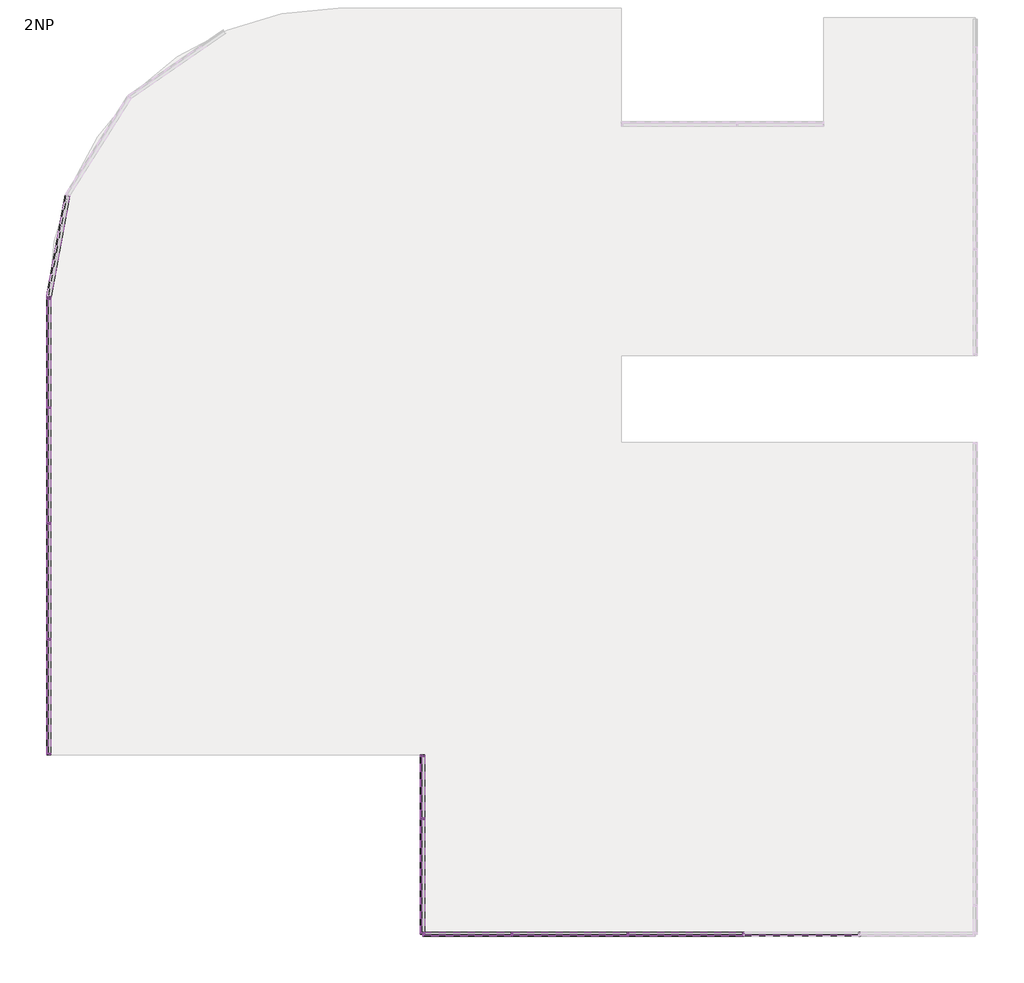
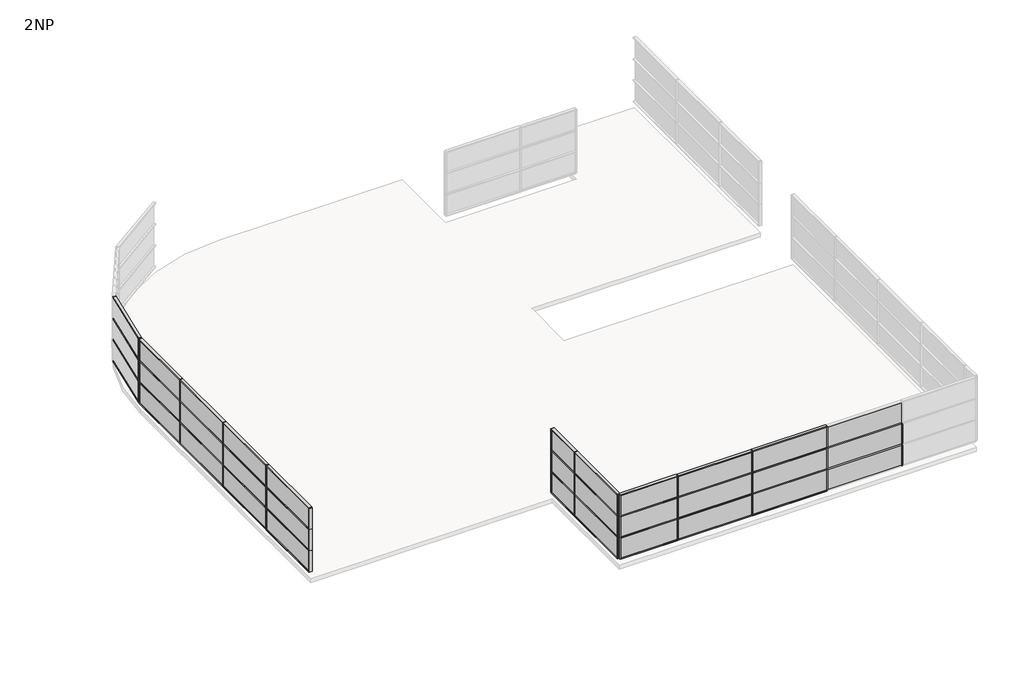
# One storey, part 1 of 4: 81 members, 30 plates.
"""IFC4 building model written with IfcOpenShell, lengths in millimetres."""

from ifc_helpers import new_model, si_unit, origin, place, context, project, spatial, transform, mapped, element, save
from components import rectangular_mullion_50_x_150mm_d99dc9be, rectangular_mullion_50_x_150mm_6588f46c, rectangular_mullion_50_x_150mm_a037c29c, rectangular_mullion_50_x_150mm_c2546fd4, rectangular_mullion_50_x_150mm_cd873b1a, rectangular_mullion_50_x_150mm_642c3999, rectangular_mullion_50_x_150mm_d9fe8572, rectangular_mullion_50_x_150mm_f56f8a9a, system_panel_glazed_8e9402eb, system_panel_glazed_89ac83a7, system_panel_glazed_2dc425e2, system_panel_glazed_da5fadb4, system_panel_glazed_3a708ec0

model = new_model("IFC4")

# Units and contexts
model_context = context("Model", 3, world=origin())
ifc_project = project(units=[si_unit("LENGTHUNIT", "METRE", prefix="MILLI")], contexts=[model_context])

# Site, building, storey
site = spatial("IfcSite", under=ifc_project)
building = spatial("IfcBuilding", under=site)
storey = spatial("IfcBuildingStorey", under=building, Name="2NP", Elevation=8000.0)

# Members
placement = place(None, origin())
rectangular_mullion_50_x_150mm_shape = rectangular_mullion_50_x_150mm_d99dc9be(model_context)
element("IfcMember", 1, ObjectType="Rectangular Mullion : 50 x 150mm", at=placement, inside=storey, context=model_context, shape_type="MappedRepresentation", body=[
    mapped(rectangular_mullion_50_x_150mm_shape, transform((9503.2660975, -23624.0160434, 9600.0), x_axis=(-1.0, 0.0, 0.0), y_axis=(0.0, -1.0, 0.0), z_axis=(0.0, 0.0, 1.0))),
])
element("IfcMember", 2, ObjectType="Rectangular Mullion : 50 x 150mm", at=placement, inside=storey, context=model_context, shape_type="MappedRepresentation", body=[
    mapped(rectangular_mullion_50_x_150mm_shape, transform((9503.2660975, -23624.0160434, 10800.0), x_axis=(-1.0, 0.0, 0.0), y_axis=(0.0, -1.0, 0.0), z_axis=(0.0, 0.0, 1.0))),
])
element("IfcMember", 3, ObjectType="Rectangular Mullion : 50 x 150mm", at=placement, inside=storey, context=model_context, shape_type="MappedRepresentation", body=[
    mapped(rectangular_mullion_50_x_150mm_shape, transform((5503.2660975, -23624.0160434, 9600.0), x_axis=(-1.0, 0.0, 0.0), y_axis=(0.0, -1.0, 0.0), z_axis=(0.0, 0.0, 1.0))),
])
element("IfcMember", 4, ObjectType="Rectangular Mullion : 50 x 150mm", at=placement, inside=storey, context=model_context, shape_type="MappedRepresentation", body=[
    mapped(rectangular_mullion_50_x_150mm_shape, transform((5503.2660975, -23624.0160434, 10800.0), x_axis=(-1.0, 0.0, 0.0), y_axis=(0.0, -1.0, 0.0), z_axis=(0.0, 0.0, 1.0))),
])
element("IfcMember", 5, ObjectType="Rectangular Mullion : 50 x 150mm", at=placement, inside=storey, context=model_context, shape_type="MappedRepresentation", body=[
    mapped(rectangular_mullion_50_x_150mm_shape, transform((5503.2660975, -23624.0160434, 12000.0), x_axis=(-1.0, 0.0, 0.0), y_axis=(0.0, -1.0, 0.0), z_axis=(0.0, 0.0, 1.0))),
])
element("IfcMember", 6, ObjectType="Rectangular Mullion : 50 x 150mm", at=placement, inside=storey, context=model_context, shape_type="MappedRepresentation", body=[
    mapped(rectangular_mullion_50_x_150mm_shape, transform((1503.2660975, -23624.0160434, 9600.0), x_axis=(-1.0, 0.0, 0.0), y_axis=(0.0, -1.0, 0.0), z_axis=(0.0, 0.0, 1.0))),
])
element("IfcMember", 7, ObjectType="Rectangular Mullion : 50 x 150mm", at=placement, inside=storey, context=model_context, shape_type="MappedRepresentation", body=[
    mapped(rectangular_mullion_50_x_150mm_shape, transform((1503.2660975, -23624.0160434, 10800.0), x_axis=(-1.0, 0.0, 0.0), y_axis=(0.0, -1.0, 0.0), z_axis=(0.0, 0.0, 1.0))),
])
element("IfcMember", 8, ObjectType="Rectangular Mullion : 50 x 150mm", at=placement, inside=storey, context=model_context, shape_type="MappedRepresentation", body=[
    mapped(rectangular_mullion_50_x_150mm_shape, transform((1503.2660975, -23624.0160434, 12000.0), x_axis=(-1.0, 0.0, 0.0), y_axis=(0.0, -1.0, 0.0), z_axis=(0.0, 0.0, 1.0))),
])
element("IfcMember", 9, ObjectType="Rectangular Mullion : 50 x 150mm", at=placement, inside=storey, context=model_context, shape_type="MappedRepresentation", body=[
    mapped(rectangular_mullion_50_x_150mm_shape, transform((-2496.7339025, -23624.0160434, 9600.0), x_axis=(-1.0, 0.0, 0.0), y_axis=(0.0, -1.0, 0.0), z_axis=(0.0, 0.0, 1.0))),
])
element("IfcMember", 10, ObjectType="Rectangular Mullion : 50 x 150mm", at=placement, inside=storey, context=model_context, shape_type="MappedRepresentation", body=[
    mapped(rectangular_mullion_50_x_150mm_shape, transform((-2496.7339025, -23624.0160434, 10800.0), x_axis=(-1.0, 0.0, 0.0), y_axis=(0.0, -1.0, 0.0), z_axis=(0.0, 0.0, 1.0))),
])
element("IfcMember", 11, ObjectType="Rectangular Mullion : 50 x 150mm", at=placement, inside=storey, context=model_context, shape_type="MappedRepresentation", body=[
    mapped(rectangular_mullion_50_x_150mm_shape, transform((-2496.7339025, -23624.0160434, 12000.0), x_axis=(-1.0, 0.0, 0.0), y_axis=(0.0, -1.0, 0.0), z_axis=(0.0, 0.0, 1.0))),
])
element("IfcMember", 12, ObjectType="Rectangular Mullion : 50 x 150mm", at=placement, inside=storey, context=model_context, shape_type="MappedRepresentation", body=[
    mapped(rectangular_mullion_50_x_150mm_shape, transform((-5587.173406, -19624.0160434, 9600.0), x_axis=(0.0, 1.0, 0.0), y_axis=(-1.0, 0.0, 0.0), z_axis=(0.0, 0.0, 1.0))),
])
element("IfcMember", 13, ObjectType="Rectangular Mullion : 50 x 150mm", at=placement, inside=storey, context=model_context, shape_type="MappedRepresentation", body=[
    mapped(rectangular_mullion_50_x_150mm_shape, transform((-5587.173406, -19624.0160434, 10800.0), x_axis=(0.0, 1.0, 0.0), y_axis=(-1.0, 0.0, 0.0), z_axis=(0.0, 0.0, 1.0))),
])
element("IfcMember", 14, ObjectType="Rectangular Mullion : 50 x 150mm", at=placement, inside=storey, context=model_context, shape_type="MappedRepresentation", body=[
    mapped(rectangular_mullion_50_x_150mm_shape, transform((-5587.173406, -19624.0160434, 12000.0), x_axis=(0.0, 1.0, 0.0), y_axis=(-1.0, 0.0, 0.0), z_axis=(0.0, 0.0, 1.0))),
])
element("IfcMember", 15, ObjectType="Rectangular Mullion : 50 x 150mm", at=placement, inside=storey, context=model_context, shape_type="MappedRepresentation", body=[
    mapped(rectangular_mullion_50_x_150mm_shape, transform((-18496.7339025, -13423.5291324, 9600.0), x_axis=(0.0, 1.0, 0.0), y_axis=(-1.0, 0.0, 0.0), z_axis=(0.0, 0.0, 1.0))),
])
element("IfcMember", 16, ObjectType="Rectangular Mullion : 50 x 150mm", at=placement, inside=storey, context=model_context, shape_type="MappedRepresentation", body=[
    mapped(rectangular_mullion_50_x_150mm_shape, transform((-18496.7339025, -13423.5291324, 10800.0), x_axis=(0.0, 1.0, 0.0), y_axis=(-1.0, 0.0, 0.0), z_axis=(0.0, 0.0, 1.0))),
])
element("IfcMember", 17, ObjectType="Rectangular Mullion : 50 x 150mm", at=placement, inside=storey, context=model_context, shape_type="MappedRepresentation", body=[
    mapped(rectangular_mullion_50_x_150mm_shape, transform((-18496.7339025, -13423.5291324, 12000.0), x_axis=(0.0, 1.0, 0.0), y_axis=(-1.0, 0.0, 0.0), z_axis=(0.0, 0.0, 1.0))),
])
element("IfcMember", 18, ObjectType="Rectangular Mullion : 50 x 150mm", at=placement, inside=storey, context=model_context, shape_type="MappedRepresentation", body=[
    mapped(rectangular_mullion_50_x_150mm_shape, transform((-18496.7339025, -9423.5291324, 9600.0), x_axis=(0.0, 1.0, 0.0), y_axis=(-1.0, 0.0, 0.0), z_axis=(0.0, 0.0, 1.0))),
])
element("IfcMember", 19, ObjectType="Rectangular Mullion : 50 x 150mm", at=placement, inside=storey, context=model_context, shape_type="MappedRepresentation", body=[
    mapped(rectangular_mullion_50_x_150mm_shape, transform((-18496.7339025, -9423.5291324, 10800.0), x_axis=(0.0, 1.0, 0.0), y_axis=(-1.0, 0.0, 0.0), z_axis=(0.0, 0.0, 1.0))),
])
element("IfcMember", 20, ObjectType="Rectangular Mullion : 50 x 150mm", at=placement, inside=storey, context=model_context, shape_type="MappedRepresentation", body=[
    mapped(rectangular_mullion_50_x_150mm_shape, transform((-18496.7339025, -9423.5291324, 12000.0), x_axis=(0.0, 1.0, 0.0), y_axis=(-1.0, 0.0, 0.0), z_axis=(0.0, 0.0, 1.0))),
])
element("IfcMember", 21, ObjectType="Rectangular Mullion : 50 x 150mm", at=placement, inside=storey, context=model_context, shape_type="MappedRepresentation", body=[
    mapped(rectangular_mullion_50_x_150mm_shape, transform((-18496.7339025, -5423.5291324, 9600.0), x_axis=(0.0, 1.0, 0.0), y_axis=(-1.0, 0.0, 0.0), z_axis=(0.0, 0.0, 1.0))),
])
element("IfcMember", 22, ObjectType="Rectangular Mullion : 50 x 150mm", at=placement, inside=storey, context=model_context, shape_type="MappedRepresentation", body=[
    mapped(rectangular_mullion_50_x_150mm_shape, transform((-18496.7339025, -5423.5291324, 10800.0), x_axis=(0.0, 1.0, 0.0), y_axis=(-1.0, 0.0, 0.0), z_axis=(0.0, 0.0, 1.0))),
])
element("IfcMember", 23, ObjectType="Rectangular Mullion : 50 x 150mm", at=placement, inside=storey, context=model_context, shape_type="MappedRepresentation", body=[
    mapped(rectangular_mullion_50_x_150mm_shape, transform((-18496.7339025, -5423.5291324, 12000.0), x_axis=(0.0, 1.0, 0.0), y_axis=(-1.0, 0.0, 0.0), z_axis=(0.0, 0.0, 1.0))),
])
rectangular_mullion_50_x_150mm_2_shape = rectangular_mullion_50_x_150mm_6588f46c(model_context)
element("IfcMember", 24, ObjectType="Rectangular Mullion : 50 x 150mm", at=placement, inside=storey, context=model_context, shape_type="MappedRepresentation", body=[
    mapped(rectangular_mullion_50_x_150mm_2_shape, transform((-5587.173406, -23624.0160434, 9600.0), x_axis=(-1.0, 0.0, 0.0), y_axis=(0.0, -1.0, 0.0), z_axis=(0.0, 0.0, 1.0))),
])
element("IfcMember", 25, ObjectType="Rectangular Mullion : 50 x 150mm", at=placement, inside=storey, context=model_context, shape_type="MappedRepresentation", body=[
    mapped(rectangular_mullion_50_x_150mm_2_shape, transform((-5587.173406, -23624.0160434, 10800.0), x_axis=(-1.0, 0.0, 0.0), y_axis=(0.0, -1.0, 0.0), z_axis=(0.0, 0.0, 1.0))),
])
element("IfcMember", 26, ObjectType="Rectangular Mullion : 50 x 150mm", at=placement, inside=storey, context=model_context, shape_type="MappedRepresentation", body=[
    mapped(rectangular_mullion_50_x_150mm_2_shape, transform((-5587.173406, -23624.0160434, 12000.0), x_axis=(-1.0, 0.0, 0.0), y_axis=(0.0, -1.0, 0.0), z_axis=(0.0, 0.0, 1.0))),
])
element("IfcMember", 27, ObjectType="Rectangular Mullion : 50 x 150mm", at=placement, inside=storey, context=model_context, shape_type="MappedRepresentation", body=[
    mapped(rectangular_mullion_50_x_150mm_2_shape, transform((-5587.173406, -17423.5291324, 9600.0), x_axis=(0.0, 1.0, 0.0), y_axis=(-1.0, 0.0, 0.0), z_axis=(0.0, 0.0, 1.0))),
])
element("IfcMember", 28, ObjectType="Rectangular Mullion : 50 x 150mm", at=placement, inside=storey, context=model_context, shape_type="MappedRepresentation", body=[
    mapped(rectangular_mullion_50_x_150mm_2_shape, transform((-5587.173406, -17423.5291324, 10800.0), x_axis=(0.0, 1.0, 0.0), y_axis=(-1.0, 0.0, 0.0), z_axis=(0.0, 0.0, 1.0))),
])
element("IfcMember", 29, ObjectType="Rectangular Mullion : 50 x 150mm", at=placement, inside=storey, context=model_context, shape_type="MappedRepresentation", body=[
    mapped(rectangular_mullion_50_x_150mm_2_shape, transform((-5587.173406, -17423.5291324, 12000.0), x_axis=(0.0, 1.0, 0.0), y_axis=(-1.0, 0.0, 0.0), z_axis=(0.0, 0.0, 1.0))),
])
element("IfcMember", 30, ObjectType="Rectangular Mullion : 50 x 150mm", at=placement, inside=storey, context=model_context, shape_type="MappedRepresentation", body=[
    mapped(rectangular_mullion_50_x_150mm_2_shape, transform((-18496.7339025, -1624.0160434, 9600.0), x_axis=(0.0, 1.0, 0.0), y_axis=(-1.0, 0.0, 0.0), z_axis=(0.0, 0.0, 1.0))),
])
element("IfcMember", 31, ObjectType="Rectangular Mullion : 50 x 150mm", at=placement, inside=storey, context=model_context, shape_type="MappedRepresentation", body=[
    mapped(rectangular_mullion_50_x_150mm_2_shape, transform((-18496.7339025, -1624.0160434, 10800.0), x_axis=(0.0, 1.0, 0.0), y_axis=(-1.0, 0.0, 0.0), z_axis=(0.0, 0.0, 1.0))),
])
element("IfcMember", 32, ObjectType="Rectangular Mullion : 50 x 150mm", at=placement, inside=storey, context=model_context, shape_type="MappedRepresentation", body=[
    mapped(rectangular_mullion_50_x_150mm_2_shape, transform((-18496.7339025, -1624.0160434, 12000.0), x_axis=(0.0, 1.0, 0.0), y_axis=(-1.0, 0.0, 0.0), z_axis=(0.0, 0.0, 1.0))),
])
rectangular_mullion_50_x_150mm_3_shape = rectangular_mullion_50_x_150mm_a037c29c(model_context)
element("IfcMember", 33, ObjectType="Rectangular Mullion : 50 x 150mm", at=placement, inside=storey, context=model_context, shape_type="MappedRepresentation", body=[
    mapped(rectangular_mullion_50_x_150mm_3_shape, transform((5478.2660975, -23624.0160434, 8400.0), x_axis=(0.0, 0.0, 1.0), y_axis=(0.0, -1.0, 0.0), z_axis=(1.0, 0.0, 0.0))),
])
element("IfcMember", 34, ObjectType="Rectangular Mullion : 50 x 150mm", at=placement, inside=storey, context=model_context, shape_type="MappedRepresentation", body=[
    mapped(rectangular_mullion_50_x_150mm_3_shape, transform((1478.2660975, -23624.0160434, 8400.0), x_axis=(0.0, 0.0, 1.0), y_axis=(0.0, -1.0, 0.0), z_axis=(1.0, 0.0, 0.0))),
])
element("IfcMember", 35, ObjectType="Rectangular Mullion : 50 x 150mm", at=placement, inside=storey, context=model_context, shape_type="MappedRepresentation", body=[
    mapped(rectangular_mullion_50_x_150mm_3_shape, transform((5478.2660975, -23624.0160434, 9600.0), x_axis=(0.0, 0.0, 1.0), y_axis=(0.0, -1.0, 0.0), z_axis=(1.0, 0.0, 0.0))),
])
element("IfcMember", 36, ObjectType="Rectangular Mullion : 50 x 150mm", at=placement, inside=storey, context=model_context, shape_type="MappedRepresentation", body=[
    mapped(rectangular_mullion_50_x_150mm_3_shape, transform((1478.2660975, -23624.0160434, 9600.0), x_axis=(0.0, 0.0, 1.0), y_axis=(0.0, -1.0, 0.0), z_axis=(1.0, 0.0, 0.0))),
])
element("IfcMember", 37, ObjectType="Rectangular Mullion : 50 x 150mm", at=placement, inside=storey, context=model_context, shape_type="MappedRepresentation", body=[
    mapped(rectangular_mullion_50_x_150mm_3_shape, transform((5478.2660975, -23624.0160434, 10800.0), x_axis=(0.0, 0.0, 1.0), y_axis=(0.0, -1.0, 0.0), z_axis=(1.0, 0.0, 0.0))),
])
element("IfcMember", 38, ObjectType="Rectangular Mullion : 50 x 150mm", at=placement, inside=storey, context=model_context, shape_type="MappedRepresentation", body=[
    mapped(rectangular_mullion_50_x_150mm_3_shape, transform((1478.2660975, -23624.0160434, 10800.0), x_axis=(0.0, 0.0, 1.0), y_axis=(0.0, -1.0, 0.0), z_axis=(1.0, 0.0, 0.0))),
])
element("IfcMember", 39, ObjectType="Rectangular Mullion : 50 x 150mm", at=placement, inside=storey, context=model_context, shape_type="MappedRepresentation", body=[
    mapped(rectangular_mullion_50_x_150mm_3_shape, transform((5478.2660975, -23624.0160434, 12000.0), x_axis=(0.0, 0.0, 1.0), y_axis=(0.0, -1.0, 0.0), z_axis=(1.0, 0.0, 0.0))),
])
element("IfcMember", 40, ObjectType="Rectangular Mullion : 50 x 150mm", at=placement, inside=storey, context=model_context, shape_type="MappedRepresentation", body=[
    mapped(rectangular_mullion_50_x_150mm_3_shape, transform((1478.2660975, -23624.0160434, 12000.0), x_axis=(0.0, 0.0, 1.0), y_axis=(0.0, -1.0, 0.0), z_axis=(1.0, 0.0, 0.0))),
])
element("IfcMember", 41, ObjectType="Rectangular Mullion : 50 x 150mm", at=placement, inside=storey, context=model_context, shape_type="MappedRepresentation", body=[
    mapped(rectangular_mullion_50_x_150mm_3_shape, transform((-18496.7339025, -13398.5291324, 8400.0), x_axis=(0.0, 0.0, 1.0), y_axis=(-1.0, 0.0, 0.0), z_axis=(0.0, -1.0, 0.0))),
])
element("IfcMember", 42, ObjectType="Rectangular Mullion : 50 x 150mm", at=placement, inside=storey, context=model_context, shape_type="MappedRepresentation", body=[
    mapped(rectangular_mullion_50_x_150mm_3_shape, transform((-18496.7339025, -9398.5291324, 8400.0), x_axis=(0.0, 0.0, 1.0), y_axis=(-1.0, 0.0, 0.0), z_axis=(0.0, -1.0, 0.0))),
])
element("IfcMember", 43, ObjectType="Rectangular Mullion : 50 x 150mm", at=placement, inside=storey, context=model_context, shape_type="MappedRepresentation", body=[
    mapped(rectangular_mullion_50_x_150mm_3_shape, transform((-18496.7339025, -13398.5291324, 9600.0), x_axis=(0.0, 0.0, 1.0), y_axis=(-1.0, 0.0, 0.0), z_axis=(0.0, -1.0, 0.0))),
])
element("IfcMember", 44, ObjectType="Rectangular Mullion : 50 x 150mm", at=placement, inside=storey, context=model_context, shape_type="MappedRepresentation", body=[
    mapped(rectangular_mullion_50_x_150mm_3_shape, transform((-18496.7339025, -9398.5291324, 9600.0), x_axis=(0.0, 0.0, 1.0), y_axis=(-1.0, 0.0, 0.0), z_axis=(0.0, -1.0, 0.0))),
])
element("IfcMember", 45, ObjectType="Rectangular Mullion : 50 x 150mm", at=placement, inside=storey, context=model_context, shape_type="MappedRepresentation", body=[
    mapped(rectangular_mullion_50_x_150mm_3_shape, transform((-18496.7339025, -13398.5291324, 10800.0), x_axis=(0.0, 0.0, 1.0), y_axis=(-1.0, 0.0, 0.0), z_axis=(0.0, -1.0, 0.0))),
])
element("IfcMember", 46, ObjectType="Rectangular Mullion : 50 x 150mm", at=placement, inside=storey, context=model_context, shape_type="MappedRepresentation", body=[
    mapped(rectangular_mullion_50_x_150mm_3_shape, transform((-18496.7339025, -9398.5291324, 10800.0), x_axis=(0.0, 0.0, 1.0), y_axis=(-1.0, 0.0, 0.0), z_axis=(0.0, -1.0, 0.0))),
])
element("IfcMember", 47, ObjectType="Rectangular Mullion : 50 x 150mm", at=placement, inside=storey, context=model_context, shape_type="MappedRepresentation", body=[
    mapped(rectangular_mullion_50_x_150mm_3_shape, transform((-18496.7339025, -13398.5291324, 12000.0), x_axis=(0.0, 0.0, 1.0), y_axis=(-1.0, 0.0, 0.0), z_axis=(0.0, -1.0, 0.0))),
])
element("IfcMember", 48, ObjectType="Rectangular Mullion : 50 x 150mm", at=placement, inside=storey, context=model_context, shape_type="MappedRepresentation", body=[
    mapped(rectangular_mullion_50_x_150mm_3_shape, transform((-18496.7339025, -9398.5291324, 12000.0), x_axis=(0.0, 0.0, 1.0), y_axis=(-1.0, 0.0, 0.0), z_axis=(0.0, -1.0, 0.0))),
])
rectangular_mullion_50_x_150mm_4_shape = rectangular_mullion_50_x_150mm_c2546fd4(model_context)
element("IfcMember", 49, ObjectType="Rectangular Mullion : 50 x 150mm", at=placement, inside=storey, context=model_context, shape_type="MappedRepresentation", body=[
    mapped(rectangular_mullion_50_x_150mm_4_shape, transform((-5587.173406, -23574.0160434, 8400.0), x_axis=(0.0, 0.0, 1.0), y_axis=(-1.0, 0.0, 0.0), z_axis=(0.0, -1.0, 0.0))),
])
element("IfcMember", 50, ObjectType="Rectangular Mullion : 50 x 150mm", at=placement, inside=storey, context=model_context, shape_type="MappedRepresentation", body=[
    mapped(rectangular_mullion_50_x_150mm_4_shape, transform((-5587.173406, -23574.0160434, 9600.0), x_axis=(0.0, 0.0, 1.0), y_axis=(-1.0, 0.0, 0.0), z_axis=(0.0, -1.0, 0.0))),
])
element("IfcMember", 51, ObjectType="Rectangular Mullion : 50 x 150mm", at=placement, inside=storey, context=model_context, shape_type="MappedRepresentation", body=[
    mapped(rectangular_mullion_50_x_150mm_4_shape, transform((-5587.173406, -23574.0160434, 10800.0), x_axis=(0.0, 0.0, 1.0), y_axis=(-1.0, 0.0, 0.0), z_axis=(0.0, -1.0, 0.0))),
])
element("IfcMember", 52, ObjectType="Rectangular Mullion : 50 x 150mm", at=placement, inside=storey, context=model_context, shape_type="MappedRepresentation", body=[
    mapped(rectangular_mullion_50_x_150mm_4_shape, transform((-5587.173406, -23574.0160434, 12000.0), x_axis=(0.0, 0.0, 1.0), y_axis=(-1.0, 0.0, 0.0), z_axis=(0.0, -1.0, 0.0))),
])
element("IfcMember", 53, ObjectType="Rectangular Mullion : 50 x 150mm", at=placement, inside=storey, context=model_context, shape_type="MappedRepresentation", body=[
    mapped(rectangular_mullion_50_x_150mm_4_shape, transform((-18496.7339025, -17373.5291324, 8400.0), x_axis=(0.0, 0.0, 1.0), y_axis=(-1.0, 0.0, 0.0), z_axis=(0.0, -1.0, 0.0))),
])
element("IfcMember", 54, ObjectType="Rectangular Mullion : 50 x 150mm", at=placement, inside=storey, context=model_context, shape_type="MappedRepresentation", body=[
    mapped(rectangular_mullion_50_x_150mm_4_shape, transform((-18496.7339025, -17373.5291324, 9600.0), x_axis=(0.0, 0.0, 1.0), y_axis=(-1.0, 0.0, 0.0), z_axis=(0.0, -1.0, 0.0))),
])
element("IfcMember", 55, ObjectType="Rectangular Mullion : 50 x 150mm", at=placement, inside=storey, context=model_context, shape_type="MappedRepresentation", body=[
    mapped(rectangular_mullion_50_x_150mm_4_shape, transform((-18496.7339025, -17373.5291324, 10800.0), x_axis=(0.0, 0.0, 1.0), y_axis=(-1.0, 0.0, 0.0), z_axis=(0.0, -1.0, 0.0))),
])
element("IfcMember", 56, ObjectType="Rectangular Mullion : 50 x 150mm", at=placement, inside=storey, context=model_context, shape_type="MappedRepresentation", body=[
    mapped(rectangular_mullion_50_x_150mm_4_shape, transform((-18496.7339025, -17373.5291324, 12000.0), x_axis=(0.0, 0.0, 1.0), y_axis=(-1.0, 0.0, 0.0), z_axis=(0.0, -1.0, 0.0))),
])
element("IfcMember", 57, ObjectType="Rectangular Mullion : 50 x 150mm", at=placement, inside=storey, context=model_context, shape_type="MappedRepresentation", body=[
    mapped(rectangular_mullion_50_x_150mm_2_shape, transform((-5587.173406, -23624.0160434, 8400.0), x_axis=(0.0, -1.0, 0.0), y_axis=(-1.0, 0.0, 0.0), z_axis=(0.0, 0.0, -1.0))),
])
element("IfcMember", 58, ObjectType="Rectangular Mullion : 50 x 150mm", at=placement, inside=storey, context=model_context, shape_type="MappedRepresentation", body=[
    mapped(rectangular_mullion_50_x_150mm_2_shape, transform((-5587.173406, -23624.0160434, 9600.0), x_axis=(0.0, -1.0, 0.0), y_axis=(-1.0, 0.0, 0.0), z_axis=(0.0, 0.0, -1.0))),
])
element("IfcMember", 59, ObjectType="Rectangular Mullion : 50 x 150mm", at=placement, inside=storey, context=model_context, shape_type="MappedRepresentation", body=[
    mapped(rectangular_mullion_50_x_150mm_2_shape, transform((-5587.173406, -23624.0160434, 10800.0), x_axis=(0.0, -1.0, 0.0), y_axis=(-1.0, 0.0, 0.0), z_axis=(0.0, 0.0, -1.0))),
])
element("IfcMember", 60, ObjectType="Rectangular Mullion : 50 x 150mm", at=placement, inside=storey, context=model_context, shape_type="MappedRepresentation", body=[
    mapped(rectangular_mullion_50_x_150mm_2_shape, transform((-18496.7339025, -1624.0160434, 8400.0), x_axis=(-0.18033241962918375, -0.9836057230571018, 0.0), y_axis=(-0.9836057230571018, 0.18033241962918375, 0.0), z_axis=(0.0, 0.0, -1.0))),
])
element("IfcMember", 61, ObjectType="Rectangular Mullion : 50 x 150mm", at=placement, inside=storey, context=model_context, shape_type="MappedRepresentation", body=[
    mapped(rectangular_mullion_50_x_150mm_2_shape, transform((-18496.7339025, -1624.0160434, 9600.0), x_axis=(-0.18033241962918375, -0.9836057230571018, 0.0), y_axis=(-0.9836057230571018, 0.18033241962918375, 0.0), z_axis=(0.0, 0.0, -1.0))),
])
element("IfcMember", 62, ObjectType="Rectangular Mullion : 50 x 150mm", at=placement, inside=storey, context=model_context, shape_type="MappedRepresentation", body=[
    mapped(rectangular_mullion_50_x_150mm_2_shape, transform((-18496.7339025, -1624.0160434, 10800.0), x_axis=(-0.18033241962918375, -0.9836057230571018, 0.0), y_axis=(-0.9836057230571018, 0.18033241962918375, 0.0), z_axis=(0.0, 0.0, -1.0))),
])
element("IfcMember", 63, ObjectType="Rectangular Mullion : 50 x 150mm", at=placement, inside=storey, context=model_context, shape_type="MappedRepresentation", body=[
    mapped(rectangular_mullion_50_x_150mm_2_shape, transform((-18496.7339025, -17423.5291324, 8400.0), x_axis=(0.0, -1.0, 0.0), y_axis=(-1.0, 0.0, 0.0), z_axis=(0.0, 0.0, -1.0))),
])
element("IfcMember", 64, ObjectType="Rectangular Mullion : 50 x 150mm", at=placement, inside=storey, context=model_context, shape_type="MappedRepresentation", body=[
    mapped(rectangular_mullion_50_x_150mm_2_shape, transform((-18496.7339025, -17423.5291324, 9600.0), x_axis=(0.0, -1.0, 0.0), y_axis=(-1.0, 0.0, 0.0), z_axis=(0.0, 0.0, -1.0))),
])
element("IfcMember", 65, ObjectType="Rectangular Mullion : 50 x 150mm", at=placement, inside=storey, context=model_context, shape_type="MappedRepresentation", body=[
    mapped(rectangular_mullion_50_x_150mm_2_shape, transform((-18496.7339025, -17423.5291324, 10800.0), x_axis=(0.0, -1.0, 0.0), y_axis=(-1.0, 0.0, 0.0), z_axis=(0.0, 0.0, -1.0))),
])
rectangular_mullion_50_x_150mm_5_shape = rectangular_mullion_50_x_150mm_cd873b1a(model_context)
element("IfcMember", 66, ObjectType="Rectangular Mullion : 50 x 150mm", at=placement, inside=storey, context=model_context, shape_type="MappedRepresentation", body=[
    mapped(rectangular_mullion_50_x_150mm_5_shape, transform((-2521.7339025, -23624.0160434, 8400.0), x_axis=(0.0, 0.0, 1.0), y_axis=(0.0, -1.0, 0.0), z_axis=(1.0, 0.0, 0.0))),
])
element("IfcMember", 67, ObjectType="Rectangular Mullion : 50 x 150mm", at=placement, inside=storey, context=model_context, shape_type="MappedRepresentation", body=[
    mapped(rectangular_mullion_50_x_150mm_5_shape, transform((-2521.7339025, -23624.0160434, 9600.0), x_axis=(0.0, 0.0, 1.0), y_axis=(0.0, -1.0, 0.0), z_axis=(1.0, 0.0, 0.0))),
])
element("IfcMember", 68, ObjectType="Rectangular Mullion : 50 x 150mm", at=placement, inside=storey, context=model_context, shape_type="MappedRepresentation", body=[
    mapped(rectangular_mullion_50_x_150mm_5_shape, transform((-2521.7339025, -23624.0160434, 10800.0), x_axis=(0.0, 0.0, 1.0), y_axis=(0.0, -1.0, 0.0), z_axis=(1.0, 0.0, 0.0))),
])
element("IfcMember", 69, ObjectType="Rectangular Mullion : 50 x 150mm", at=placement, inside=storey, context=model_context, shape_type="MappedRepresentation", body=[
    mapped(rectangular_mullion_50_x_150mm_5_shape, transform((-2521.7339025, -23624.0160434, 12000.0), x_axis=(0.0, 0.0, 1.0), y_axis=(0.0, -1.0, 0.0), z_axis=(1.0, 0.0, 0.0))),
])
rectangular_mullion_50_x_150mm_6_shape = rectangular_mullion_50_x_150mm_642c3999(model_context)
element("IfcMember", 70, ObjectType="Rectangular Mullion : 50 x 150mm", at=placement, inside=storey, context=model_context, shape_type="MappedRepresentation", body=[
    mapped(rectangular_mullion_50_x_150mm_6_shape, transform((-5587.173406, -19599.0160434, 8400.0), x_axis=(0.0, 0.0, 1.0), y_axis=(-1.0, 0.0, 0.0), z_axis=(0.0, -1.0, 0.0))),
])
element("IfcMember", 71, ObjectType="Rectangular Mullion : 50 x 150mm", at=placement, inside=storey, context=model_context, shape_type="MappedRepresentation", body=[
    mapped(rectangular_mullion_50_x_150mm_6_shape, transform((-5587.173406, -19599.0160434, 9600.0), x_axis=(0.0, 0.0, 1.0), y_axis=(-1.0, 0.0, 0.0), z_axis=(0.0, -1.0, 0.0))),
])
element("IfcMember", 72, ObjectType="Rectangular Mullion : 50 x 150mm", at=placement, inside=storey, context=model_context, shape_type="MappedRepresentation", body=[
    mapped(rectangular_mullion_50_x_150mm_6_shape, transform((-5587.173406, -19599.0160434, 10800.0), x_axis=(0.0, 0.0, 1.0), y_axis=(-1.0, 0.0, 0.0), z_axis=(0.0, -1.0, 0.0))),
])
element("IfcMember", 73, ObjectType="Rectangular Mullion : 50 x 150mm", at=placement, inside=storey, context=model_context, shape_type="MappedRepresentation", body=[
    mapped(rectangular_mullion_50_x_150mm_6_shape, transform((-5587.173406, -19599.0160434, 12000.0), x_axis=(0.0, 0.0, 1.0), y_axis=(-1.0, 0.0, 0.0), z_axis=(0.0, -1.0, 0.0))),
])
rectangular_mullion_50_x_150mm_7_shape = rectangular_mullion_50_x_150mm_d9fe8572(model_context)
element("IfcMember", 74, ObjectType="Rectangular Mullion : 50 x 150mm", at=placement, inside=storey, context=model_context, shape_type="MappedRepresentation", body=[
    mapped(rectangular_mullion_50_x_150mm_7_shape, transform((-18487.7172815, -1574.8357573, 9600.0), x_axis=(0.0, 0.0, 1.0), y_axis=(-0.9836057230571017, 0.1803324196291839, 0.0), z_axis=(-0.1803324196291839, -0.9836057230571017, 0.0))),
])
element("IfcMember", 75, ObjectType="Rectangular Mullion : 50 x 150mm", at=placement, inside=storey, context=model_context, shape_type="MappedRepresentation", body=[
    mapped(rectangular_mullion_50_x_150mm_7_shape, transform((-18487.7172815, -1574.8357573, 10800.0), x_axis=(0.0, 0.0, 1.0), y_axis=(-0.9836057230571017, 0.18033241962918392, 0.0), z_axis=(-0.18033241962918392, -0.9836057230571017, 0.0))),
])
element("IfcMember", 76, ObjectType="Rectangular Mullion : 50 x 150mm", at=placement, inside=storey, context=model_context, shape_type="MappedRepresentation", body=[
    mapped(rectangular_mullion_50_x_150mm_7_shape, transform((-18487.7172815, -1574.8357573, 8400.0), x_axis=(0.0, 0.0, 1.0), y_axis=(-0.9836057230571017, 0.1803324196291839, 0.0), z_axis=(-0.1803324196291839, -0.9836057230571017, 0.0))),
])
element("IfcMember", 77, ObjectType="Rectangular Mullion : 50 x 150mm", at=placement, inside=storey, context=model_context, shape_type="MappedRepresentation", body=[
    mapped(rectangular_mullion_50_x_150mm_7_shape, transform((-18487.7172815, -1574.8357573, 12000.0), x_axis=(0.0, 0.0, 1.0), y_axis=(-0.9836057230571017, 0.18033241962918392, 0.0), z_axis=(-0.18033241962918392, -0.9836057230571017, 0.0))),
])
rectangular_mullion_50_x_150mm_8_shape = rectangular_mullion_50_x_150mm_f56f8a9a(model_context)
element("IfcMember", 78, ObjectType="Rectangular Mullion : 50 x 150mm", at=placement, inside=storey, context=model_context, shape_type="MappedRepresentation", body=[
    mapped(rectangular_mullion_50_x_150mm_8_shape, transform((-18496.7339025, -5398.5291324, 8400.0), x_axis=(0.0, 0.0, 1.0), y_axis=(-1.0, 0.0, 0.0), z_axis=(0.0, -1.0, 0.0))),
])
element("IfcMember", 79, ObjectType="Rectangular Mullion : 50 x 150mm", at=placement, inside=storey, context=model_context, shape_type="MappedRepresentation", body=[
    mapped(rectangular_mullion_50_x_150mm_8_shape, transform((-18496.7339025, -5398.5291324, 9600.0), x_axis=(0.0, 0.0, 1.0), y_axis=(-1.0, 0.0, 0.0), z_axis=(0.0, -1.0, 0.0))),
])
element("IfcMember", 80, ObjectType="Rectangular Mullion : 50 x 150mm", at=placement, inside=storey, context=model_context, shape_type="MappedRepresentation", body=[
    mapped(rectangular_mullion_50_x_150mm_8_shape, transform((-18496.7339025, -5398.5291324, 10800.0), x_axis=(0.0, 0.0, 1.0), y_axis=(-1.0, 0.0, 0.0), z_axis=(0.0, -1.0, 0.0))),
])
element("IfcMember", 81, ObjectType="Rectangular Mullion : 50 x 150mm", at=placement, inside=storey, context=model_context, shape_type="MappedRepresentation", body=[
    mapped(rectangular_mullion_50_x_150mm_8_shape, transform((-18496.7339025, -5398.5291324, 12000.0), x_axis=(0.0, 0.0, 1.0), y_axis=(-1.0, 0.0, 0.0), z_axis=(0.0, -1.0, 0.0))),
])

# Plates
system_panel_glazed_shape = system_panel_glazed_8e9402eb(model_context)
element("IfcPlate", 82, ObjectType="System Panel : Glazed", at=placement, inside=storey, context=model_context, shape_type="MappedRepresentation", body=[
    mapped(system_panel_glazed_shape, transform((-5587.173406, -21611.5160434, 8425.0), x_axis=(0.0, 1.0, 0.0), y_axis=(-1.0, 0.0, 0.0), z_axis=(0.0, 0.0, 1.0))),
])
element("IfcPlate", 83, ObjectType="System Panel : Glazed", at=placement, inside=storey, context=model_context, shape_type="MappedRepresentation", body=[
    mapped(system_panel_glazed_shape, transform((-5587.173406, -21611.5160434, 9625.0), x_axis=(0.0, 1.0, 0.0), y_axis=(-1.0, 0.0, 0.0), z_axis=(0.0, 0.0, 1.0))),
])
element("IfcPlate", 84, ObjectType="System Panel : Glazed", at=placement, inside=storey, context=model_context, shape_type="MappedRepresentation", body=[
    mapped(system_panel_glazed_shape, transform((-5587.173406, -21611.5160434, 10825.0), x_axis=(0.0, 1.0, 0.0), y_axis=(-1.0, 0.0, 0.0), z_axis=(0.0, 0.0, 1.0))),
])
element("IfcPlate", 85, ObjectType="System Panel : Glazed", at=placement, inside=storey, context=model_context, shape_type="MappedRepresentation", body=[
    mapped(system_panel_glazed_shape, transform((-18496.7339025, -15411.0291324, 8425.0), x_axis=(0.0, 1.0, 0.0), y_axis=(-1.0, 0.0, 0.0), z_axis=(0.0, 0.0, 1.0))),
])
element("IfcPlate", 86, ObjectType="System Panel : Glazed", at=placement, inside=storey, context=model_context, shape_type="MappedRepresentation", body=[
    mapped(system_panel_glazed_shape, transform((-18496.7339025, -15411.0291324, 9625.0), x_axis=(0.0, 1.0, 0.0), y_axis=(-1.0, 0.0, 0.0), z_axis=(0.0, 0.0, 1.0))),
])
element("IfcPlate", 87, ObjectType="System Panel : Glazed", at=placement, inside=storey, context=model_context, shape_type="MappedRepresentation", body=[
    mapped(system_panel_glazed_shape, transform((-18496.7339025, -15411.0291324, 10825.0), x_axis=(0.0, 1.0, 0.0), y_axis=(-1.0, 0.0, 0.0), z_axis=(0.0, 0.0, 1.0))),
])
system_panel_glazed_2_shape = system_panel_glazed_89ac83a7(model_context)
element("IfcPlate", 88, ObjectType="System Panel : Glazed", at=placement, inside=storey, context=model_context, shape_type="MappedRepresentation", body=[
    mapped(system_panel_glazed_2_shape, transform((7503.2660975, -23624.0160434, 8425.0), x_axis=(-1.0, 0.0, 0.0), y_axis=(0.0, -1.0, 0.0), z_axis=(0.0, 0.0, 1.0))),
])
element("IfcPlate", 89, ObjectType="System Panel : Glazed", at=placement, inside=storey, context=model_context, shape_type="MappedRepresentation", body=[
    mapped(system_panel_glazed_2_shape, transform((3503.2660975, -23624.0160434, 8425.0), x_axis=(-1.0, 0.0, 0.0), y_axis=(0.0, -1.0, 0.0), z_axis=(0.0, 0.0, 1.0))),
])
element("IfcPlate", 90, ObjectType="System Panel : Glazed", at=placement, inside=storey, context=model_context, shape_type="MappedRepresentation", body=[
    mapped(system_panel_glazed_2_shape, transform((-496.7339025, -23624.0160434, 8425.0), x_axis=(-1.0, 0.0, 0.0), y_axis=(0.0, -1.0, 0.0), z_axis=(0.0, 0.0, 1.0))),
])
element("IfcPlate", 91, ObjectType="System Panel : Glazed", at=placement, inside=storey, context=model_context, shape_type="MappedRepresentation", body=[
    mapped(system_panel_glazed_2_shape, transform((7503.2660975, -23624.0160434, 9625.0), x_axis=(-1.0, 0.0, 0.0), y_axis=(0.0, -1.0, 0.0), z_axis=(0.0, 0.0, 1.0))),
])
element("IfcPlate", 92, ObjectType="System Panel : Glazed", at=placement, inside=storey, context=model_context, shape_type="MappedRepresentation", body=[
    mapped(system_panel_glazed_2_shape, transform((3503.2660975, -23624.0160434, 9625.0), x_axis=(-1.0, 0.0, 0.0), y_axis=(0.0, -1.0, 0.0), z_axis=(0.0, 0.0, 1.0))),
])
element("IfcPlate", 93, ObjectType="System Panel : Glazed", at=placement, inside=storey, context=model_context, shape_type="MappedRepresentation", body=[
    mapped(system_panel_glazed_2_shape, transform((-496.7339025, -23624.0160434, 9625.0), x_axis=(-1.0, 0.0, 0.0), y_axis=(0.0, -1.0, 0.0), z_axis=(0.0, 0.0, 1.0))),
])
element("IfcPlate", 94, ObjectType="System Panel : Glazed", at=placement, inside=storey, context=model_context, shape_type="MappedRepresentation", body=[
    mapped(system_panel_glazed_2_shape, transform((7503.2660975, -23624.0160434, 10825.0), x_axis=(-1.0, 0.0, 0.0), y_axis=(0.0, -1.0, 0.0), z_axis=(0.0, 0.0, 1.0))),
])
element("IfcPlate", 95, ObjectType="System Panel : Glazed", at=placement, inside=storey, context=model_context, shape_type="MappedRepresentation", body=[
    mapped(system_panel_glazed_2_shape, transform((3503.2660975, -23624.0160434, 10825.0), x_axis=(-1.0, 0.0, 0.0), y_axis=(0.0, -1.0, 0.0), z_axis=(0.0, 0.0, 1.0))),
])
element("IfcPlate", 96, ObjectType="System Panel : Glazed", at=placement, inside=storey, context=model_context, shape_type="MappedRepresentation", body=[
    mapped(system_panel_glazed_2_shape, transform((-496.7339025, -23624.0160434, 10825.0), x_axis=(-1.0, 0.0, 0.0), y_axis=(0.0, -1.0, 0.0), z_axis=(0.0, 0.0, 1.0))),
])
element("IfcPlate", 97, ObjectType="System Panel : Glazed", at=placement, inside=storey, context=model_context, shape_type="MappedRepresentation", body=[
    mapped(system_panel_glazed_2_shape, transform((-18496.7339025, -11423.5291324, 8425.0), x_axis=(0.0, 1.0, 0.0), y_axis=(-1.0, 0.0, 0.0), z_axis=(0.0, 0.0, 1.0))),
])
element("IfcPlate", 98, ObjectType="System Panel : Glazed", at=placement, inside=storey, context=model_context, shape_type="MappedRepresentation", body=[
    mapped(system_panel_glazed_2_shape, transform((-18496.7339025, -7423.5291324, 8425.0), x_axis=(0.0, 1.0, 0.0), y_axis=(-1.0, 0.0, 0.0), z_axis=(0.0, 0.0, 1.0))),
])
element("IfcPlate", 99, ObjectType="System Panel : Glazed", at=placement, inside=storey, context=model_context, shape_type="MappedRepresentation", body=[
    mapped(system_panel_glazed_2_shape, transform((-18496.7339025, -11423.5291324, 9625.0), x_axis=(0.0, 1.0, 0.0), y_axis=(-1.0, 0.0, 0.0), z_axis=(0.0, 0.0, 1.0))),
])
element("IfcPlate", 100, ObjectType="System Panel : Glazed", at=placement, inside=storey, context=model_context, shape_type="MappedRepresentation", body=[
    mapped(system_panel_glazed_2_shape, transform((-18496.7339025, -7423.5291324, 9625.0), x_axis=(0.0, 1.0, 0.0), y_axis=(-1.0, 0.0, 0.0), z_axis=(0.0, 0.0, 1.0))),
])
element("IfcPlate", 101, ObjectType="System Panel : Glazed", at=placement, inside=storey, context=model_context, shape_type="MappedRepresentation", body=[
    mapped(system_panel_glazed_2_shape, transform((-18496.7339025, -11423.5291324, 10825.0), x_axis=(0.0, 1.0, 0.0), y_axis=(-1.0, 0.0, 0.0), z_axis=(0.0, 0.0, 1.0))),
])
element("IfcPlate", 102, ObjectType="System Panel : Glazed", at=placement, inside=storey, context=model_context, shape_type="MappedRepresentation", body=[
    mapped(system_panel_glazed_2_shape, transform((-18496.7339025, -7423.5291324, 10825.0), x_axis=(0.0, 1.0, 0.0), y_axis=(-1.0, 0.0, 0.0), z_axis=(0.0, 0.0, 1.0))),
])
system_panel_glazed_3_shape = system_panel_glazed_2dc425e2(model_context)
element("IfcPlate", 103, ObjectType="System Panel : Glazed", at=placement, inside=storey, context=model_context, shape_type="MappedRepresentation", body=[
    mapped(system_panel_glazed_3_shape, transform((-4029.4536543, -23624.0160434, 8425.0), x_axis=(-1.0, 0.0, 0.0), y_axis=(0.0, -1.0, 0.0), z_axis=(0.0, 0.0, 1.0))),
])
element("IfcPlate", 104, ObjectType="System Panel : Glazed", at=placement, inside=storey, context=model_context, shape_type="MappedRepresentation", body=[
    mapped(system_panel_glazed_3_shape, transform((-4029.4536543, -23624.0160434, 9625.0), x_axis=(-1.0, 0.0, 0.0), y_axis=(0.0, -1.0, 0.0), z_axis=(0.0, 0.0, 1.0))),
])
element("IfcPlate", 105, ObjectType="System Panel : Glazed", at=placement, inside=storey, context=model_context, shape_type="MappedRepresentation", body=[
    mapped(system_panel_glazed_3_shape, transform((-4029.4536543, -23624.0160434, 10825.0), x_axis=(-1.0, 0.0, 0.0), y_axis=(0.0, -1.0, 0.0), z_axis=(0.0, 0.0, 1.0))),
])
system_panel_glazed_4_shape = system_panel_glazed_da5fadb4(model_context)
element("IfcPlate", 106, ObjectType="System Panel : Glazed", at=placement, inside=storey, context=model_context, shape_type="MappedRepresentation", body=[
    mapped(system_panel_glazed_4_shape, transform((-5587.173406, -18536.2725879, 8425.0), x_axis=(0.0, 1.0, 0.0), y_axis=(-1.0, 0.0, 0.0), z_axis=(0.0, 0.0, 1.0))),
])
element("IfcPlate", 107, ObjectType="System Panel : Glazed", at=placement, inside=storey, context=model_context, shape_type="MappedRepresentation", body=[
    mapped(system_panel_glazed_4_shape, transform((-5587.173406, -18536.2725879, 9625.0), x_axis=(0.0, 1.0, 0.0), y_axis=(-1.0, 0.0, 0.0), z_axis=(0.0, 0.0, 1.0))),
])
element("IfcPlate", 108, ObjectType="System Panel : Glazed", at=placement, inside=storey, context=model_context, shape_type="MappedRepresentation", body=[
    mapped(system_panel_glazed_4_shape, transform((-5587.173406, -18536.2725879, 10825.0), x_axis=(0.0, 1.0, 0.0), y_axis=(-1.0, 0.0, 0.0), z_axis=(0.0, 0.0, 1.0))),
])
system_panel_glazed_5_shape = system_panel_glazed_3a708ec0(model_context)
element("IfcPlate", 109, ObjectType="System Panel : Glazed", at=placement, inside=storey, context=model_context, shape_type="MappedRepresentation", body=[
    mapped(system_panel_glazed_5_shape, transform((-18496.7339025, -3536.2725879, 8425.0), x_axis=(0.0, 1.0, 0.0), y_axis=(-1.0, 0.0, 0.0), z_axis=(0.0, 0.0, 1.0))),
])
element("IfcPlate", 110, ObjectType="System Panel : Glazed", at=placement, inside=storey, context=model_context, shape_type="MappedRepresentation", body=[
    mapped(system_panel_glazed_5_shape, transform((-18496.7339025, -3536.2725879, 9625.0), x_axis=(0.0, 1.0, 0.0), y_axis=(-1.0, 0.0, 0.0), z_axis=(0.0, 0.0, 1.0))),
])
element("IfcPlate", 111, ObjectType="System Panel : Glazed", at=placement, inside=storey, context=model_context, shape_type="MappedRepresentation", body=[
    mapped(system_panel_glazed_5_shape, transform((-18496.7339025, -3536.2725879, 10825.0), x_axis=(0.0, 1.0, 0.0), y_axis=(-1.0, 0.0, 0.0), z_axis=(0.0, 0.0, 1.0))),
])

save(model, "model.ifc")
